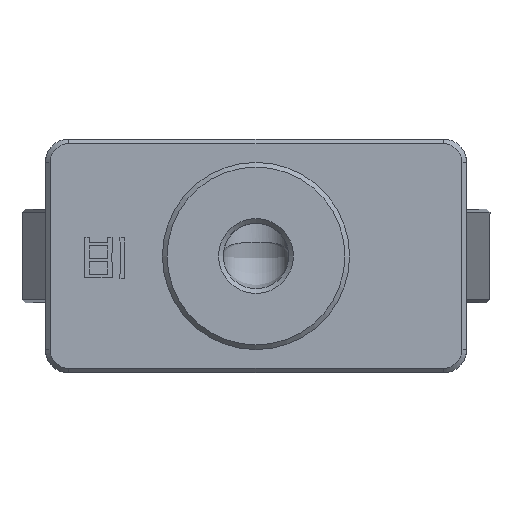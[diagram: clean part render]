
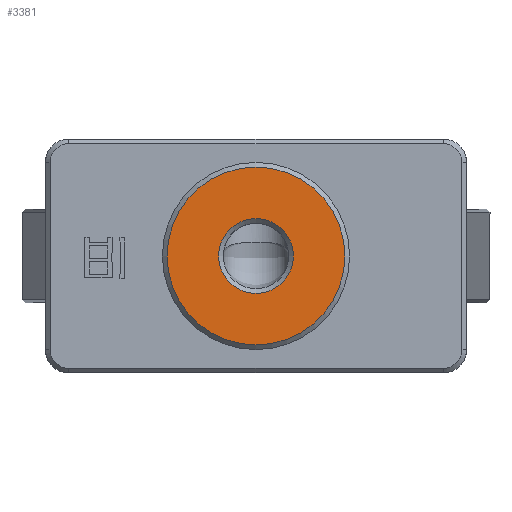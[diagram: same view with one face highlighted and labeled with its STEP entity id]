
A CAD part, front view. The second image highlights one B-rep face of the part: STEP entity #3381.
In plain terms, the highlighted planar face has unit normal (0, -1, 0).
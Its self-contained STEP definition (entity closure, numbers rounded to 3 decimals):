
#2821=FACE_BOUND('',#4347,.T.);
#2822=FACE_BOUND('',#4348,.T.);
#3130=CIRCLE('',#9315,2.4);
#3147=CIRCLE('',#9354,5.7);
#3381=ADVANCED_FACE('',(#2821,#2822),#3754,.T.);
#3754=PLANE('',#9355);
#4347=EDGE_LOOP('',(#4960));
#4348=EDGE_LOOP('',(#4961));
#4960=ORIENTED_EDGE('',*,*,#7303,.F.);
#4961=ORIENTED_EDGE('',*,*,#7246,.T.);
#6651=VERTEX_POINT('',#12023);
#6688=VERTEX_POINT('',#12251);
#7246=EDGE_CURVE('',#6651,#6651,#3130,.T.);
#7303=EDGE_CURVE('',#6688,#6688,#3147,.T.);
#9315=AXIS2_PLACEMENT_3D('',#12022,#10015,#10016);
#9354=AXIS2_PLACEMENT_3D('',#12250,#10129,#10130);
#9355=AXIS2_PLACEMENT_3D('',#12252,#10131,#10132);
#10015=DIRECTION('',(0.,1.,0.));
#10016=DIRECTION('',(0.,0.,-1.));
#10129=DIRECTION('',(0.,1.,0.));
#10130=DIRECTION('',(0.,0.,1.));
#10131=DIRECTION('',(0.,-1.,0.));
#10132=DIRECTION('',(0.,0.,-1.));
#12022=CARTESIAN_POINT('',(-15.668,-58.023,0.));
#12023=CARTESIAN_POINT('',(-15.668,-58.023,-2.4));
#12250=CARTESIAN_POINT('',(-15.668,-58.023,0.));
#12251=CARTESIAN_POINT('',(-15.668,-58.023,5.7));
#12252=CARTESIAN_POINT('',(-15.668,-58.023,0.));
